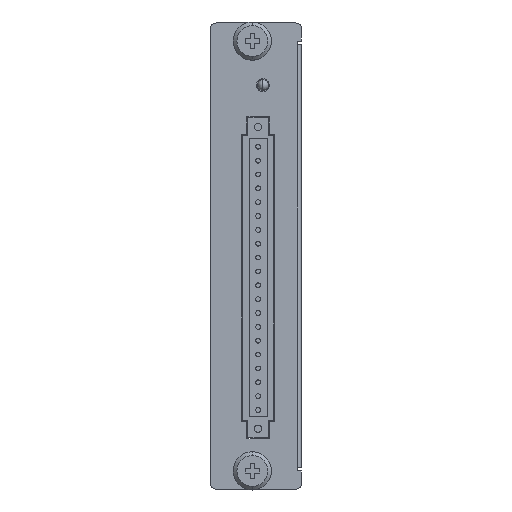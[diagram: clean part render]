
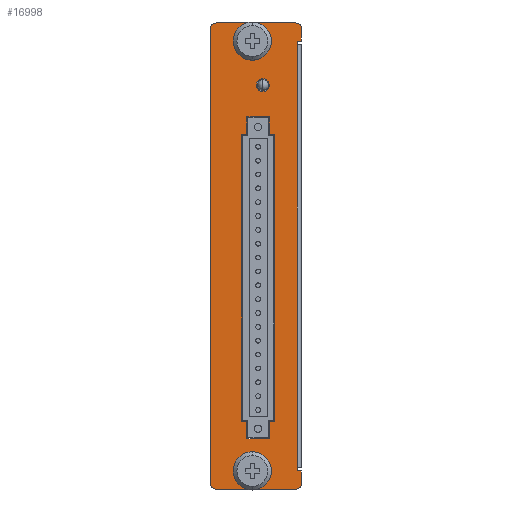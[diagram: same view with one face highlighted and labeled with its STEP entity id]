
A CAD part, top view. The second image highlights one B-rep face of the part: STEP entity #16998.
In plain terms, the highlighted planar face has unit normal (0, 0, 1).
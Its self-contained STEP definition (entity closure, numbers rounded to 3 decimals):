
#1034=DIRECTION('',(0.,-1.,0.));
#1035=VECTOR('',#1034,125.2);
#1036=CARTESIAN_POINT('',(-17.4,62.6,68.5));
#1037=LINE('',#1036,#1035);
#1038=CARTESIAN_POINT('',(-15.9,62.6,68.5));
#1039=DIRECTION('',(0.,0.,1.));
#1040=DIRECTION('',(0.,1.,0.));
#1041=AXIS2_PLACEMENT_3D('',#1038,#1039,#1040);
#1043=DIRECTION('',(-1.,0.,0.));
#1044=VECTOR('',#1043,22.);
#1045=CARTESIAN_POINT('',(6.1,64.1,68.5));
#1046=LINE('',#1045,#1044);
#1047=CARTESIAN_POINT('',(6.1,62.6,68.5));
#1048=DIRECTION('',(0.,0.,1.));
#1049=DIRECTION('',(1.,0.,0.));
#1050=AXIS2_PLACEMENT_3D('',#1047,#1048,#1049);
#1052=DIRECTION('',(0.,1.,0.));
#1053=VECTOR('',#1052,3.5);
#1054=CARTESIAN_POINT('',(7.6,59.1,68.5));
#1055=LINE('',#1054,#1053);
#1056=DIRECTION('',(1.,0.,0.));
#1057=VECTOR('',#1056,1.2);
#1058=CARTESIAN_POINT('',(6.4,59.1,68.5));
#1059=LINE('',#1058,#1057);
#1060=DIRECTION('',(0.,1.,0.));
#1061=VECTOR('',#1060,1.);
#1062=CARTESIAN_POINT('',(6.4,58.1,68.5));
#1063=LINE('',#1062,#1061);
#1064=DIRECTION('',(0.,1.,0.));
#1065=VECTOR('',#1064,1.);
#1066=CARTESIAN_POINT('',(6.4,-59.1,68.5));
#1067=LINE('',#1066,#1065);
#1068=DIRECTION('',(0.,1.,0.));
#1069=VECTOR('',#1068,3.5);
#1070=CARTESIAN_POINT('',(7.6,-62.6,68.5));
#1071=LINE('',#1070,#1069);
#1072=CARTESIAN_POINT('',(6.1,-62.6,68.5));
#1073=DIRECTION('',(0.,0.,1.));
#1074=DIRECTION('',(0.,-1.,0.));
#1075=AXIS2_PLACEMENT_3D('',#1072,#1073,#1074);
#1077=DIRECTION('',(1.,0.,0.));
#1078=VECTOR('',#1077,22.);
#1079=CARTESIAN_POINT('',(-15.9,-64.1,68.5));
#1080=LINE('',#1079,#1078);
#1081=CARTESIAN_POINT('',(-15.9,-62.6,68.5));
#1082=DIRECTION('',(0.,0.,1.));
#1083=DIRECTION('',(-1.,0.,0.));
#1084=AXIS2_PLACEMENT_3D('',#1081,#1082,#1083);
#1086=CARTESIAN_POINT('',(-3.,47.,68.5));
#1087=DIRECTION('',(0.,0.,-1.));
#1088=DIRECTION('',(0.,1.,0.));
#1089=AXIS2_PLACEMENT_3D('',#1086,#1087,#1088);
#1091=CARTESIAN_POINT('',(-3.,47.,68.5));
#1092=DIRECTION('',(0.,0.,-1.));
#1093=DIRECTION('',(0.,-1.,0.));
#1094=AXIS2_PLACEMENT_3D('',#1091,#1092,#1093);
#1096=DIRECTION('',(1.,0.,0.));
#1097=VECTOR('',#1096,1.53);
#1098=CARTESIAN_POINT('',(-1.28,33.45,68.5));
#1099=LINE('',#1098,#1097);
#1100=DIRECTION('',(0.,-1.,0.));
#1101=VECTOR('',#1100,4.85);
#1102=CARTESIAN_POINT('',(-1.28,38.3,68.5));
#1103=LINE('',#1102,#1101);
#1104=DIRECTION('',(1.,0.,0.));
#1105=VECTOR('',#1104,6.1);
#1106=CARTESIAN_POINT('',(-7.38,38.3,68.5));
#1107=LINE('',#1106,#1105);
#1108=DIRECTION('',(0.,1.,0.));
#1109=VECTOR('',#1108,4.85);
#1110=CARTESIAN_POINT('',(-7.38,33.45,68.5));
#1111=LINE('',#1110,#1109);
#1112=DIRECTION('',(1.,0.,0.));
#1113=VECTOR('',#1112,1.47);
#1114=CARTESIAN_POINT('',(-8.85,33.45,68.5));
#1115=LINE('',#1114,#1113);
#1116=DIRECTION('',(0.,1.,0.));
#1117=VECTOR('',#1116,78.9);
#1118=CARTESIAN_POINT('',(-8.85,-45.45,68.5));
#1119=LINE('',#1118,#1117);
#1120=DIRECTION('',(-1.,0.,0.));
#1121=VECTOR('',#1120,1.47);
#1122=CARTESIAN_POINT('',(-7.38,-45.45,68.5));
#1123=LINE('',#1122,#1121);
#1124=DIRECTION('',(0.,1.,0.));
#1125=VECTOR('',#1124,4.85);
#1126=CARTESIAN_POINT('',(-7.38,-50.3,68.5));
#1127=LINE('',#1126,#1125);
#1128=DIRECTION('',(-1.,0.,0.));
#1129=VECTOR('',#1128,6.1);
#1130=CARTESIAN_POINT('',(-1.28,-50.3,68.5));
#1131=LINE('',#1130,#1129);
#1132=DIRECTION('',(0.,-1.,0.));
#1133=VECTOR('',#1132,4.85);
#1134=CARTESIAN_POINT('',(-1.28,-45.45,68.5));
#1135=LINE('',#1134,#1133);
#1136=DIRECTION('',(-1.,0.,0.));
#1137=VECTOR('',#1136,1.53);
#1138=CARTESIAN_POINT('',(0.25,-45.45,68.5));
#1139=LINE('',#1138,#1137);
#1140=DIRECTION('',(0.,-1.,0.));
#1141=VECTOR('',#1140,78.9);
#1142=CARTESIAN_POINT('',(0.25,33.45,68.5));
#1143=LINE('',#1142,#1141);
#1144=CARTESIAN_POINT('',(-5.9,59.1,68.5));
#1145=DIRECTION('',(0.,0.,1.));
#1146=DIRECTION('',(-1.,0.,0.));
#1147=AXIS2_PLACEMENT_3D('',#1144,#1145,#1146);
#1149=CARTESIAN_POINT('',(-5.9,59.1,68.5));
#1150=DIRECTION('',(0.,0.,1.));
#1151=DIRECTION('',(1.,0.,0.));
#1152=AXIS2_PLACEMENT_3D('',#1149,#1150,#1151);
#1154=CARTESIAN_POINT('',(-5.9,-59.1,68.5));
#1155=DIRECTION('',(0.,0.,1.));
#1156=DIRECTION('',(-1.,0.,0.));
#1157=AXIS2_PLACEMENT_3D('',#1154,#1155,#1156);
#1159=CARTESIAN_POINT('',(-5.9,-59.1,68.5));
#1160=DIRECTION('',(0.,0.,1.));
#1161=DIRECTION('',(1.,0.,0.));
#1162=AXIS2_PLACEMENT_3D('',#1159,#1160,#1161);
#1294=DIRECTION('',(1.,0.,0.));
#1295=VECTOR('',#1294,1.2);
#1296=CARTESIAN_POINT('',(6.4,-59.1,68.5));
#1297=LINE('',#1296,#1295);
#1481=DIRECTION('',(0.,-1.,0.));
#1482=VECTOR('',#1481,116.2);
#1483=CARTESIAN_POINT('',(6.4,58.1,68.5));
#1484=LINE('',#1483,#1482);
#14845=CARTESIAN_POINT('',(7.6,-59.1,68.5));
#14847=VERTEX_POINT('',#14845);
#14849=CARTESIAN_POINT('',(-17.4,62.6,68.5));
#14850=CARTESIAN_POINT('',(-17.4,-62.6,68.5));
#14851=VERTEX_POINT('',#14849);
#14852=VERTEX_POINT('',#14850);
#14855=CARTESIAN_POINT('',(6.4,-59.1,68.5));
#14856=VERTEX_POINT('',#14855);
#14857=CARTESIAN_POINT('',(-15.9,64.1,68.5));
#14859=VERTEX_POINT('',#14857);
#14861=CARTESIAN_POINT('',(-15.9,-64.1,68.5));
#14862=VERTEX_POINT('',#14861);
#14863=CARTESIAN_POINT('',(7.6,-62.6,68.5));
#14864=VERTEX_POINT('',#14863);
#14871=CARTESIAN_POINT('',(6.1,-64.1,68.5));
#14872=VERTEX_POINT('',#14871);
#14873=CARTESIAN_POINT('',(6.1,64.1,68.5));
#14874=VERTEX_POINT('',#14873);
#14877=CARTESIAN_POINT('',(6.4,-58.1,68.5));
#14878=VERTEX_POINT('',#14877);
#14881=CARTESIAN_POINT('',(-3.,48.75,68.5));
#14882=CARTESIAN_POINT('',(-3.,45.25,68.5));
#14883=VERTEX_POINT('',#14881);
#14884=VERTEX_POINT('',#14882);
#14887=CARTESIAN_POINT('',(7.6,62.6,68.5));
#14888=VERTEX_POINT('',#14887);
#14893=CARTESIAN_POINT('',(6.4,58.1,68.5));
#14894=VERTEX_POINT('',#14893);
#14895=CARTESIAN_POINT('',(-1.28,33.45,68.5));
#14896=CARTESIAN_POINT('',(0.25,33.45,68.5));
#14897=VERTEX_POINT('',#14895);
#14898=VERTEX_POINT('',#14896);
#14903=CARTESIAN_POINT('',(7.6,59.1,68.5));
#14904=VERTEX_POINT('',#14903);
#14911=CARTESIAN_POINT('',(6.4,59.1,68.5));
#14912=VERTEX_POINT('',#14911);
#14915=CARTESIAN_POINT('',(0.25,-45.45,68.5));
#14916=VERTEX_POINT('',#14915);
#14917=CARTESIAN_POINT('',(-1.28,38.3,68.5));
#14918=VERTEX_POINT('',#14917);
#14933=CARTESIAN_POINT('',(-1.28,-45.45,68.5));
#14934=VERTEX_POINT('',#14933);
#14935=CARTESIAN_POINT('',(-7.38,38.3,68.5));
#14936=VERTEX_POINT('',#14935);
#14945=CARTESIAN_POINT('',(-1.28,-50.3,68.5));
#14946=VERTEX_POINT('',#14945);
#14949=CARTESIAN_POINT('',(-7.38,33.45,68.5));
#14950=VERTEX_POINT('',#14949);
#14967=CARTESIAN_POINT('',(-7.38,-50.3,68.5));
#14968=VERTEX_POINT('',#14967);
#14971=CARTESIAN_POINT('',(-8.85,33.45,68.5));
#14972=VERTEX_POINT('',#14971);
#14991=CARTESIAN_POINT('',(-7.38,-45.45,68.5));
#14992=VERTEX_POINT('',#14991);
#14995=CARTESIAN_POINT('',(-8.85,-45.45,68.5));
#14996=VERTEX_POINT('',#14995);
#16157=CARTESIAN_POINT('',(-9.05,59.1,68.5));
#16158=CARTESIAN_POINT('',(-2.75,59.1,68.5));
#16159=VERTEX_POINT('',#16157);
#16160=VERTEX_POINT('',#16158);
#16165=CARTESIAN_POINT('',(-9.05,-59.1,68.5));
#16166=CARTESIAN_POINT('',(-2.75,-59.1,68.5));
#16167=VERTEX_POINT('',#16165);
#16168=VERTEX_POINT('',#16166);
#16920=CARTESIAN_POINT('',(0.,0.,68.5));
#16921=DIRECTION('',(0.,0.,1.));
#16922=DIRECTION('',(1.,0.,0.));
#16923=AXIS2_PLACEMENT_3D('',#16920,#16921,#16922);
#16924=PLANE('',#16923);
#16926=ORIENTED_EDGE('',*,*,#16925,.F.);
#16928=ORIENTED_EDGE('',*,*,#16927,.F.);
#16930=ORIENTED_EDGE('',*,*,#16929,.F.);
#16932=ORIENTED_EDGE('',*,*,#16931,.F.);
#16934=ORIENTED_EDGE('',*,*,#16933,.F.);
#16936=ORIENTED_EDGE('',*,*,#16935,.F.);
#16937=ORIENTED_EDGE('',*,*,#16911,.F.);
#16939=ORIENTED_EDGE('',*,*,#16938,.T.);
#16941=ORIENTED_EDGE('',*,*,#16940,.F.);
#16943=ORIENTED_EDGE('',*,*,#16942,.T.);
#16945=ORIENTED_EDGE('',*,*,#16944,.F.);
#16947=ORIENTED_EDGE('',*,*,#16946,.F.);
#16949=ORIENTED_EDGE('',*,*,#16948,.F.);
#16951=ORIENTED_EDGE('',*,*,#16950,.F.);
#16952=EDGE_LOOP('',(#16926,#16928,#16930,#16932,#16934,#16936,#16937,#16939,
#16941,#16943,#16945,#16947,#16949,#16951));
#16953=FACE_OUTER_BOUND('',#16952,.F.);
#16955=ORIENTED_EDGE('',*,*,#16954,.F.);
#16957=ORIENTED_EDGE('',*,*,#16956,.F.);
#16958=EDGE_LOOP('',(#16955,#16957));
#16959=FACE_BOUND('',#16958,.F.);
#16961=ORIENTED_EDGE('',*,*,#16960,.F.);
#16963=ORIENTED_EDGE('',*,*,#16962,.F.);
#16965=ORIENTED_EDGE('',*,*,#16964,.F.);
#16967=ORIENTED_EDGE('',*,*,#16966,.F.);
#16969=ORIENTED_EDGE('',*,*,#16968,.F.);
#16971=ORIENTED_EDGE('',*,*,#16970,.F.);
#16973=ORIENTED_EDGE('',*,*,#16972,.F.);
#16975=ORIENTED_EDGE('',*,*,#16974,.F.);
#16977=ORIENTED_EDGE('',*,*,#16976,.F.);
#16979=ORIENTED_EDGE('',*,*,#16978,.F.);
#16981=ORIENTED_EDGE('',*,*,#16980,.F.);
#16983=ORIENTED_EDGE('',*,*,#16982,.F.);
#16984=EDGE_LOOP('',(#16961,#16963,#16965,#16967,#16969,#16971,#16973,#16975,
#16977,#16979,#16981,#16983));
#16985=FACE_BOUND('',#16984,.F.);
#16987=ORIENTED_EDGE('',*,*,#16986,.T.);
#16989=ORIENTED_EDGE('',*,*,#16988,.T.);
#16990=EDGE_LOOP('',(#16987,#16989));
#16991=FACE_BOUND('',#16990,.F.);
#16993=ORIENTED_EDGE('',*,*,#16992,.T.);
#16995=ORIENTED_EDGE('',*,*,#16994,.T.);
#16996=EDGE_LOOP('',(#16993,#16995));
#16997=FACE_BOUND('',#16996,.F.);
#16998=ADVANCED_FACE('',(#16953,#16959,#16985,#16991,#16997),#16924,.T.);
#1042=CIRCLE('',#1041,1.5);
#1051=CIRCLE('',#1050,1.5);
#1076=CIRCLE('',#1075,1.5);
#1085=CIRCLE('',#1084,1.5);
#1090=CIRCLE('',#1089,1.75);
#1095=CIRCLE('',#1094,1.75);
#1148=CIRCLE('',#1147,3.15);
#1153=CIRCLE('',#1152,3.15);
#1158=CIRCLE('',#1157,3.15);
#1163=CIRCLE('',#1162,3.15);
#16911=EDGE_CURVE('',#14894,#14912,#1063,.T.);
#16925=EDGE_CURVE('',#14851,#14852,#1037,.T.);
#16927=EDGE_CURVE('',#14859,#14851,#1042,.T.);
#16929=EDGE_CURVE('',#14874,#14859,#1046,.T.);
#16931=EDGE_CURVE('',#14888,#14874,#1051,.T.);
#16933=EDGE_CURVE('',#14904,#14888,#1055,.T.);
#16935=EDGE_CURVE('',#14912,#14904,#1059,.T.);
#16938=EDGE_CURVE('',#14894,#14878,#1484,.T.);
#16940=EDGE_CURVE('',#14856,#14878,#1067,.T.);
#16942=EDGE_CURVE('',#14856,#14847,#1297,.T.);
#16944=EDGE_CURVE('',#14864,#14847,#1071,.T.);
#16946=EDGE_CURVE('',#14872,#14864,#1076,.T.);
#16948=EDGE_CURVE('',#14862,#14872,#1080,.T.);
#16950=EDGE_CURVE('',#14852,#14862,#1085,.T.);
#16954=EDGE_CURVE('',#14883,#14884,#1090,.T.);
#16956=EDGE_CURVE('',#14884,#14883,#1095,.T.);
#16960=EDGE_CURVE('',#14897,#14898,#1099,.T.);
#16962=EDGE_CURVE('',#14918,#14897,#1103,.T.);
#16964=EDGE_CURVE('',#14936,#14918,#1107,.T.);
#16966=EDGE_CURVE('',#14950,#14936,#1111,.T.);
#16968=EDGE_CURVE('',#14972,#14950,#1115,.T.);
#16970=EDGE_CURVE('',#14996,#14972,#1119,.T.);
#16972=EDGE_CURVE('',#14992,#14996,#1123,.T.);
#16974=EDGE_CURVE('',#14968,#14992,#1127,.T.);
#16976=EDGE_CURVE('',#14946,#14968,#1131,.T.);
#16978=EDGE_CURVE('',#14934,#14946,#1135,.T.);
#16980=EDGE_CURVE('',#14916,#14934,#1139,.T.);
#16982=EDGE_CURVE('',#14898,#14916,#1143,.T.);
#16986=EDGE_CURVE('',#16159,#16160,#1148,.T.);
#16988=EDGE_CURVE('',#16160,#16159,#1153,.T.);
#16992=EDGE_CURVE('',#16167,#16168,#1158,.T.);
#16994=EDGE_CURVE('',#16168,#16167,#1163,.T.);
